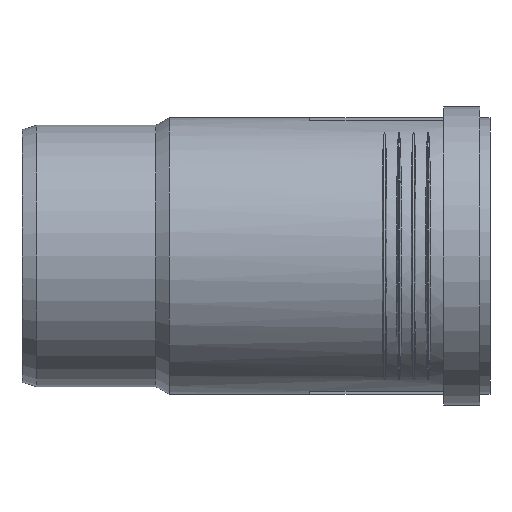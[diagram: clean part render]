
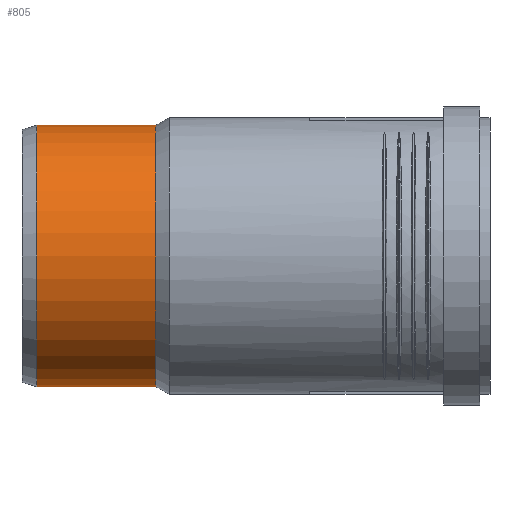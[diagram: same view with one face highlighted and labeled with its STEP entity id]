
A CAD part, front view. The second image highlights one B-rep face of the part: STEP entity #805.
In plain terms, the highlighted cylindrical face has radius 80.85 mm (diameter 161.7 mm), a full revolution.
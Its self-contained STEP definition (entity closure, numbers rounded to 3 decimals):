
#128=CYLINDRICAL_SURFACE($,#862,80.85);
#155=FACE_BOUND($,#233,.T.);
#184=FACE_OUTER_BOUND($,#232,.T.);
#232=EDGE_LOOP($,(#536));
#233=EDGE_LOOP($,(#537));
#305=CIRCLE($,#859,80.85);
#307=CIRCLE($,#863,80.85);
#343=VERTEX_POINT($,#1152);
#345=VERTEX_POINT($,#1158);
#425=EDGE_CURVE($,#343,#343,#305,.T.);
#427=EDGE_CURVE($,#345,#345,#307,.T.);
#536=ORIENTED_EDGE($,*,*,#427,.F.);
#537=ORIENTED_EDGE($,*,*,#425,.F.);
#805=ADVANCED_FACE($,(#184,#155),#128,.T.);
#859=AXIS2_PLACEMENT_3D($,#1153,#952,#953);
#862=AXIS2_PLACEMENT_3D($,#1157,#958,#959);
#863=AXIS2_PLACEMENT_3D($,#1159,#960,#961);
#952=DIRECTION('center_axis',(-1.,0.,0.));
#953=DIRECTION('ref_axis',(0.,-1.,0.));
#958=DIRECTION('center_axis',(1.,0.,0.));
#959=DIRECTION('ref_axis',(0.,1.,0.));
#960=DIRECTION('center_axis',(1.,0.,0.));
#961=DIRECTION('ref_axis',(0.,1.,0.));
#1152=CARTESIAN_POINT('',(9.,80.85,0.));
#1153=CARTESIAN_POINT('Origin',(9.,0.,0.));
#1157=CARTESIAN_POINT('Origin',(41.428,0.,0.));
#1158=CARTESIAN_POINT('',(82.856,80.85,0.));
#1159=CARTESIAN_POINT('Origin',(82.856,0.,0.));
